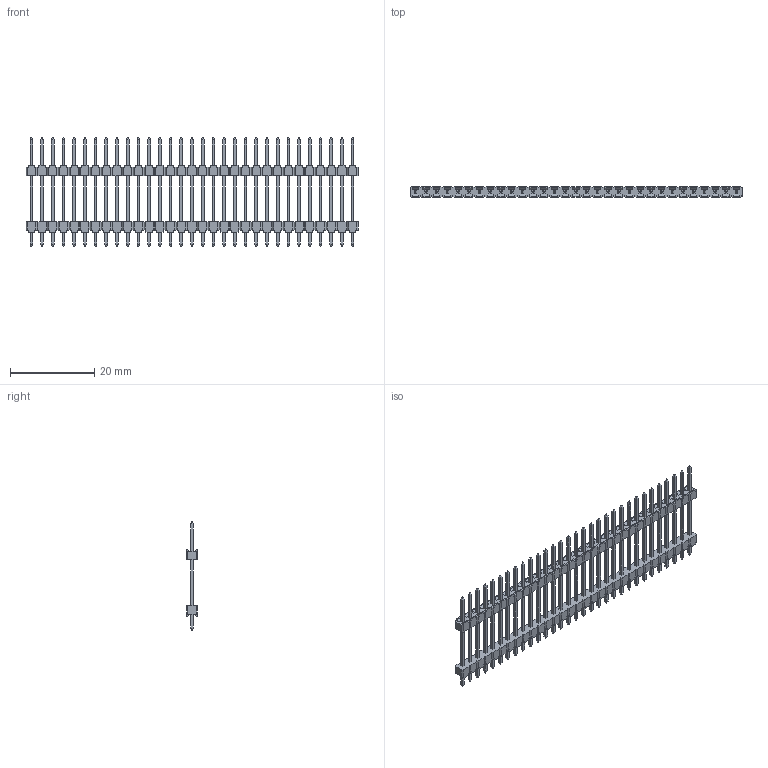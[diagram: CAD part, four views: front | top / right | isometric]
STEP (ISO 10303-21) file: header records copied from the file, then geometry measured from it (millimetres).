
FILE_DESCRIPTION(/* description */ (''),/* implementation_level */ '2;1');
FILE_NAME(/* name */ '961431-9040704-XX',/* time_stamp */ '2007-06-14T18:26:47+02:00',/* author */ (''),/* organization */ (''),/* preprocessor_version */ 'ST-DEVELOPER v9',/* originating_system */ 'UGS - NX 3.0',/* authorisation */ '');
FILE_SCHEMA (('AUTOMOTIVE_DESIGN { 1 0 10303 214 1 1 1 1 }'));
Length unit declared in the file: millimetre
Products named in the file (1): 961431-9040704-XX
Bounding box: 78.74 x 2.5 x 25.7 mm (x, y, z)
Volume: 1075.7 mm3; surface area: 3305 mm2
Topology: 1 solids, 1 shells, 1686 faces, 4612 edges, 2992 vertices
Faces by surface type: plane 1686
Entity records: 52036 total; most frequent: CARTESIAN_POINT 9291, ORIENTED_EDGE 9224, DIRECTION 7986, EDGE_CURVE 4612, LINE 4612, VECTOR 4612, VERTEX_POINT 2992, EDGE_LOOP 1810
